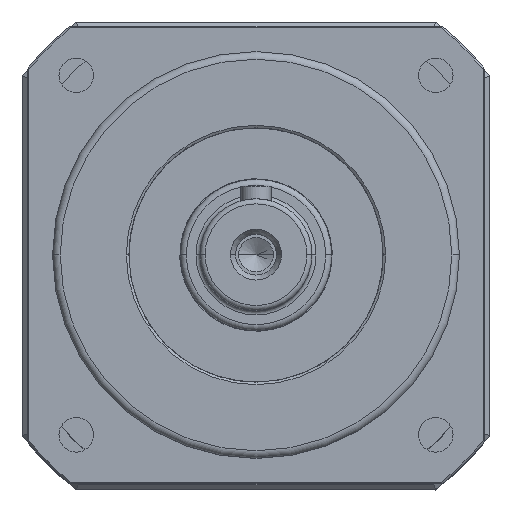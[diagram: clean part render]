
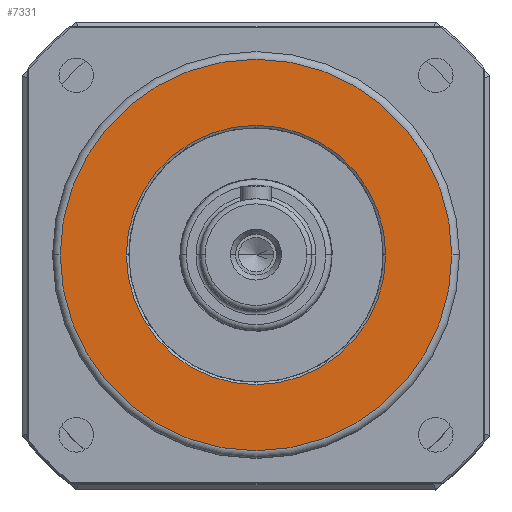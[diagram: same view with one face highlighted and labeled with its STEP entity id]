
A CAD part, top view. The second image highlights one B-rep face of the part: STEP entity #7331.
In plain terms, the highlighted planar face has unit normal (0, 0, 1).
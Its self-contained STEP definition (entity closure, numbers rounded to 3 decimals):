
#670 = FACE_BOUND ( 'NONE', #14518, .T. ) ;
#671 = FACE_OUTER_BOUND ( 'NONE', #17279, .T. ) ;
#1201 = PLANE ( 'NONE',  #9259 ) ;
#1202 = CARTESIAN_POINT ( 'NONE',  ( 0., 0., 10. ) ) ;
#1203 = DIRECTION ( 'NONE',  ( 0., 0., 1. ) ) ;
#1204 = DIRECTION ( 'NONE',  ( 1., 0., 0. ) ) ;
#3341 = CARTESIAN_POINT ( 'NONE',  ( 0., 0., 10. ) ) ;
#3342 = DIRECTION ( 'NONE',  ( 0., 0., -1. ) ) ;
#3343 = DIRECTION ( 'NONE',  ( 1., 0., 0. ) ) ;
#3352 = CARTESIAN_POINT ( 'NONE',  ( 0., 0., 10. ) ) ;
#3353 = DIRECTION ( 'NONE',  ( 0., 0., 1. ) ) ;
#3354 = DIRECTION ( 'NONE',  ( 1., 0., 0. ) ) ;
#7308 = EDGE_CURVE ( 'NONE', #17862, #17857, #14267, .T. ) ;
#7309 = EDGE_CURVE ( 'NONE', #17859, #17860, #9235, .T. ) ;
#7331 = ADVANCED_FACE ( 'NONE', ( #670, #671 ), #1201, .T. ) ;
#7877 = EDGE_CURVE ( 'NONE', #17857, #17862, #9986, .T. ) ;
#7881 = EDGE_CURVE ( 'NONE', #17860, #17859, #9993, .T. ) ;
#9101 = CARTESIAN_POINT ( 'NONE',  ( 0., 0., 10. ) ) ;
#9102 = DIRECTION ( 'NONE',  ( 0., 0., -1. ) ) ;
#9103 = DIRECTION ( 'NONE',  ( 1., 0., 0. ) ) ;
#9104 = CARTESIAN_POINT ( 'NONE',  ( 0., 0., 10. ) ) ;
#9105 = DIRECTION ( 'NONE',  ( 0., 0., 1. ) ) ;
#9106 = DIRECTION ( 'NONE',  ( 1., 0., 0. ) ) ;
#9235 = CIRCLE ( 'NONE', #9236, 38.5 ) ;
#9236 = AXIS2_PLACEMENT_3D ( 'NONE', #9104, #9105, #9106 ) ;
#9259 = AXIS2_PLACEMENT_3D ( 'NONE', #1202, #1203, #1204 ) ;
#9986 = CIRCLE ( 'NONE', #9987, 25.5 ) ;
#9987 = AXIS2_PLACEMENT_3D ( 'NONE', #3341, #3342, #3343 ) ;
#9993 = CIRCLE ( 'NONE', #9994, 38.5 ) ;
#9994 = AXIS2_PLACEMENT_3D ( 'NONE', #3352, #3353, #3354 ) ;
#14080 = CARTESIAN_POINT ( 'NONE',  ( 25.5, 0., 10. ) ) ;
#14082 = CARTESIAN_POINT ( 'NONE',  ( -38.5, 0., 10. ) ) ;
#14083 = CARTESIAN_POINT ( 'NONE',  ( 38.5, 0., 10. ) ) ;
#14085 = CARTESIAN_POINT ( 'NONE',  ( -25.5, 0., 10. ) ) ;
#14267 = CIRCLE ( 'NONE', #14277, 25.5 ) ;
#14277 = AXIS2_PLACEMENT_3D ( 'NONE', #9101, #9102, #9103 ) ;
#14500 = ORIENTED_EDGE ( 'NONE', *, *, #7877, .T. ) ;
#14502 = ORIENTED_EDGE ( 'NONE', *, *, #7308, .T. ) ;
#14503 = ORIENTED_EDGE ( 'NONE', *, *, #7309, .T. ) ;
#14504 = ORIENTED_EDGE ( 'NONE', *, *, #7881, .T. ) ;
#14518 = EDGE_LOOP ( 'NONE', ( #14500, #14502 ) ) ;
#17279 = EDGE_LOOP ( 'NONE', ( #14504, #14503 ) ) ;
#17857 = VERTEX_POINT ( 'NONE', #14080 ) ;
#17859 = VERTEX_POINT ( 'NONE', #14082 ) ;
#17860 = VERTEX_POINT ( 'NONE', #14083 ) ;
#17862 = VERTEX_POINT ( 'NONE', #14085 ) ;
